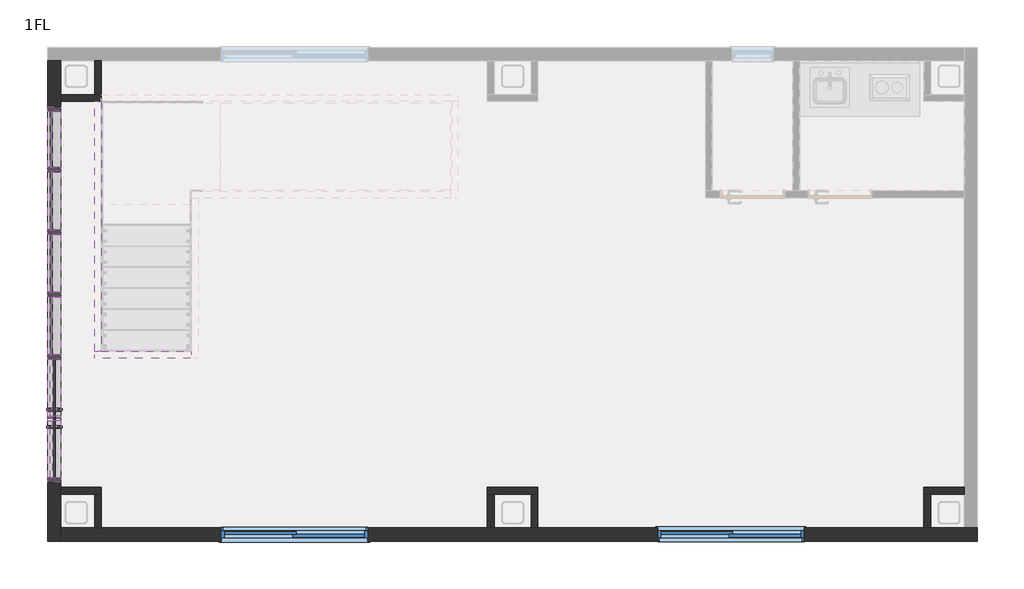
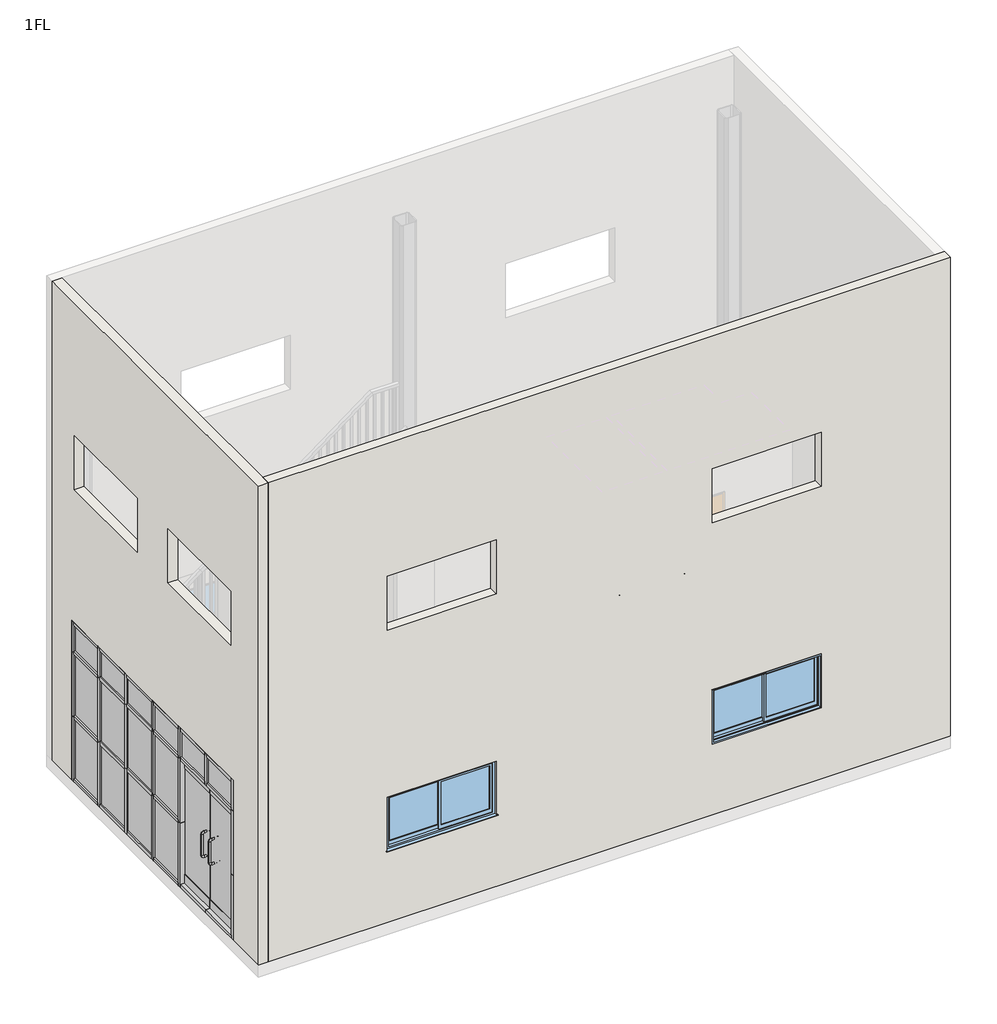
# One storey, part 1 of 3: 41 members, 15 plates, 13 walls, 2 windows.
"""IFC4 building model written with IfcOpenShell, lengths in millimetres."""

from ifc_helpers import new_model, si_unit, frame, origin, place, context, project, spatial, polyline, outline, extrude, faceted_brep, transform, mapped, element, save
from components import member_50x150mm_a0e2e66f, member_50x150mm_a9c68ae1, member_50x150mm_62bde7b1, member_50x150mm_43fc7b63, member_50x150mm_86d21357, member_50x150mm_22f77a7a, member_50x150mm_8a69f4a4, member_50x150mm_b3666dbd, member_50x150mm_1a36453b, member_50x150mm_5157afd8, member_50x150mm_37d6beb1, member_50x150mm_f4543df4, plate_bb3d00ed, plate_81b017a3, plate_3e90128c, plate_3f01d40e, plate_8868ab24, plate_6b8e4332, plate_e66cd56a, plate_cf903d6a, w1600h0800_d7cd19be

model = new_model("IFC4")

# Units and contexts
model_context = context("Model", 3, world=origin())
ifc_project = project(units=[si_unit("LENGTHUNIT", "METRE", prefix="MILLI")], contexts=[model_context])

# Site, building, storey
site = spatial("IfcSite", under=ifc_project)
building = spatial("IfcBuilding", under=site)
storey = spatial("IfcBuildingStorey", under=building, Name="1FL", Elevation=200.0)

# Members
placement = place(None, origin())
member_50x150mm_shape = member_50x150mm_a0e2e66f(model_context)
element("IfcMember", 1, ObjectType="長方形マリオン : 50x150mm", at=placement, inside=storey, context=model_context, shape_type="MappedRepresentation", body=[
    mapped(member_50x150mm_shape, transform((-5297.3880564, 2186.0382733, 2800.0), x_axis=(0.0, 0.0, 1.0), y_axis=(1.0, 0.0, 0.0), z_axis=(0.0, 1.0, 0.0))),
])
member_50x150mm_2_shape = member_50x150mm_a9c68ae1(model_context)
element("IfcMember", 2, ObjectType="長方形マリオン : 50x150mm", at=placement, inside=storey, context=model_context, shape_type="MappedRepresentation", body=[
    mapped(member_50x150mm_2_shape, transform((-5297.3880564, 86.0382733, 200.0), x_axis=(0.0, 1.0, 0.0), y_axis=(1.0, 0.0, 0.0), z_axis=(0.0, 0.0, -1.0))),
])
element("IfcMember", 3, ObjectType="長方形マリオン : 50x150mm", at=placement, inside=storey, context=model_context, shape_type="MappedRepresentation", body=[
    mapped(member_50x150mm_2_shape, transform((-5297.3880564, 1519.3716066, 200.0), x_axis=(0.0, 1.0, 0.0), y_axis=(1.0, 0.0, 0.0), z_axis=(0.0, 0.0, -1.0))),
])
element("IfcMember", 4, ObjectType="長方形マリオン : 50x150mm", at=placement, inside=storey, context=model_context, shape_type="MappedRepresentation", body=[
    mapped(member_50x150mm_2_shape, transform((-5297.3880564, 802.7049399, 200.0), x_axis=(0.0, 1.0, 0.0), y_axis=(1.0, 0.0, 0.0), z_axis=(0.0, 0.0, -1.0))),
])
element("IfcMember", 5, ObjectType="長方形マリオン : 50x150mm", at=placement, inside=storey, context=model_context, shape_type="MappedRepresentation", body=[
    mapped(member_50x150mm_2_shape, transform((-5297.3880564, -630.6283934, 200.0), x_axis=(0.0, 1.0, 0.0), y_axis=(1.0, 0.0, 0.0), z_axis=(0.0, 0.0, -1.0))),
])
member_50x150mm_3_shape = member_50x150mm_62bde7b1(model_context)
element("IfcMember", 6, ObjectType="長方形マリオン : 50x150mm", at=placement, inside=storey, context=model_context, shape_type="MappedRepresentation", body=[
    mapped(member_50x150mm_3_shape, transform((-5297.3880564, 2186.0382733, 2300.0), x_axis=(0.0, 0.0, 1.0), y_axis=(1.0, 0.0, 0.0), z_axis=(0.0, 1.0, 0.0))),
])
element("IfcMember", 7, ObjectType="長方形マリオン : 50x150mm", at=placement, inside=storey, context=model_context, shape_type="MappedRepresentation", body=[
    mapped(member_50x150mm_3_shape, transform((-5297.3880564, 2186.0382733, 1250.0), x_axis=(0.0, 0.0, 1.0), y_axis=(1.0, 0.0, 0.0), z_axis=(0.0, 1.0, 0.0))),
])
member_50x150mm_4_shape = member_50x150mm_43fc7b63(model_context)
element("IfcMember", 8, ObjectType="長方形マリオン : 50x150mm", at=placement, inside=storey, context=model_context, shape_type="MappedRepresentation", body=[
    mapped(member_50x150mm_4_shape, transform((-5297.3880564, 777.7049399, 2300.0), x_axis=(0.0, 0.0, 1.0), y_axis=(1.0, 0.0, 0.0), z_axis=(0.0, 1.0, 0.0))),
])
element("IfcMember", 9, ObjectType="長方形マリオン : 50x150mm", at=placement, inside=storey, context=model_context, shape_type="MappedRepresentation", body=[
    mapped(member_50x150mm_4_shape, transform((-5297.3880564, 1494.3716066, 2300.0), x_axis=(0.0, 0.0, 1.0), y_axis=(1.0, 0.0, 0.0), z_axis=(0.0, 1.0, 0.0))),
])
element("IfcMember", 10, ObjectType="長方形マリオン : 50x150mm", at=placement, inside=storey, context=model_context, shape_type="MappedRepresentation", body=[
    mapped(member_50x150mm_4_shape, transform((-5297.3880564, 61.0382733, 2300.0), x_axis=(0.0, 0.0, 1.0), y_axis=(1.0, 0.0, 0.0), z_axis=(0.0, 1.0, 0.0))),
])
element("IfcMember", 11, ObjectType="長方形マリオン : 50x150mm", at=placement, inside=storey, context=model_context, shape_type="MappedRepresentation", body=[
    mapped(member_50x150mm_4_shape, transform((-5297.3880564, 777.7049399, 1250.0), x_axis=(0.0, 0.0, 1.0), y_axis=(1.0, 0.0, 0.0), z_axis=(0.0, 1.0, 0.0))),
])
element("IfcMember", 12, ObjectType="長方形マリオン : 50x150mm", at=placement, inside=storey, context=model_context, shape_type="MappedRepresentation", body=[
    mapped(member_50x150mm_4_shape, transform((-5297.3880564, 1494.3716066, 1250.0), x_axis=(0.0, 0.0, 1.0), y_axis=(1.0, 0.0, 0.0), z_axis=(0.0, 1.0, 0.0))),
])
element("IfcMember", 13, ObjectType="長方形マリオン : 50x150mm", at=placement, inside=storey, context=model_context, shape_type="MappedRepresentation", body=[
    mapped(member_50x150mm_4_shape, transform((-5297.3880564, 61.0382733, 1250.0), x_axis=(0.0, 0.0, 1.0), y_axis=(1.0, 0.0, 0.0), z_axis=(0.0, 1.0, 0.0))),
])
member_50x150mm_5_shape = member_50x150mm_86d21357(model_context)
element("IfcMember", 14, ObjectType="長方形マリオン : 50x150mm", at=placement, inside=storey, context=model_context, shape_type="MappedRepresentation", body=[
    mapped(member_50x150mm_5_shape, transform((-5297.3880564, 111.0382733, 200.0), x_axis=(0.0, 0.0, -1.0), y_axis=(1.0, 0.0, 0.0), z_axis=(0.0, -1.0, 0.0))),
])
element("IfcMember", 15, ObjectType="長方形マリオン : 50x150mm", at=placement, inside=storey, context=model_context, shape_type="MappedRepresentation", body=[
    mapped(member_50x150mm_5_shape, transform((-5297.3880564, 827.7049399, 200.0), x_axis=(0.0, 0.0, -1.0), y_axis=(1.0, 0.0, 0.0), z_axis=(0.0, -1.0, 0.0))),
])
element("IfcMember", 16, ObjectType="長方形マリオン : 50x150mm", at=placement, inside=storey, context=model_context, shape_type="MappedRepresentation", body=[
    mapped(member_50x150mm_5_shape, transform((-5297.3880564, -605.6283934, 200.0), x_axis=(0.0, 0.0, -1.0), y_axis=(1.0, 0.0, 0.0), z_axis=(0.0, -1.0, 0.0))),
])
element("IfcMember", 17, ObjectType="長方形マリオン : 50x150mm", at=placement, inside=storey, context=model_context, shape_type="MappedRepresentation", body=[
    mapped(member_50x150mm_shape, transform((-5297.3880564, 1544.3716066, 200.0), x_axis=(0.0, 0.0, -1.0), y_axis=(1.0, 0.0, 0.0), z_axis=(0.0, -1.0, 0.0))),
])
element("IfcMember", 18, ObjectType="長方形マリオン : 50x150mm", at=placement, inside=storey, context=model_context, shape_type="MappedRepresentation", body=[
    mapped(member_50x150mm_5_shape, transform((-5297.3880564, 61.0382733, 2800.0), x_axis=(0.0, 0.0, 1.0), y_axis=(1.0, 0.0, 0.0), z_axis=(0.0, 1.0, 0.0))),
])
element("IfcMember", 19, ObjectType="長方形マリオン : 50x150mm", at=placement, inside=storey, context=model_context, shape_type="MappedRepresentation", body=[
    mapped(member_50x150mm_5_shape, transform((-5297.3880564, 1494.3716066, 2800.0), x_axis=(0.0, 0.0, 1.0), y_axis=(1.0, 0.0, 0.0), z_axis=(0.0, 1.0, 0.0))),
])
element("IfcMember", 20, ObjectType="長方形マリオン : 50x150mm", at=placement, inside=storey, context=model_context, shape_type="MappedRepresentation", body=[
    mapped(member_50x150mm_5_shape, transform((-5297.3880564, 777.7049399, 2800.0), x_axis=(0.0, 0.0, 1.0), y_axis=(1.0, 0.0, 0.0), z_axis=(0.0, 1.0, 0.0))),
])
member_50x150mm_6_shape = member_50x150mm_22f77a7a(model_context)
element("IfcMember", 21, ObjectType="長方形マリオン : 50x150mm", at=placement, inside=storey, context=model_context, shape_type="MappedRepresentation", body=[
    mapped(member_50x150mm_6_shape, transform((-5297.3880564, 86.0382733, 2300.0), x_axis=(0.0, 1.0, 0.0), y_axis=(1.0, 0.0, 0.0), z_axis=(0.0, 0.0, -1.0))),
])
element("IfcMember", 22, ObjectType="長方形マリオン : 50x150mm", at=placement, inside=storey, context=model_context, shape_type="MappedRepresentation", body=[
    mapped(member_50x150mm_6_shape, transform((-5297.3880564, 1519.3716066, 2300.0), x_axis=(0.0, 1.0, 0.0), y_axis=(1.0, 0.0, 0.0), z_axis=(0.0, 0.0, -1.0))),
])
element("IfcMember", 23, ObjectType="長方形マリオン : 50x150mm", at=placement, inside=storey, context=model_context, shape_type="MappedRepresentation", body=[
    mapped(member_50x150mm_6_shape, transform((-5297.3880564, 802.7049399, 2300.0), x_axis=(0.0, 1.0, 0.0), y_axis=(1.0, 0.0, 0.0), z_axis=(0.0, 0.0, -1.0))),
])
element("IfcMember", 24, ObjectType="長方形マリオン : 50x150mm", at=placement, inside=storey, context=model_context, shape_type="MappedRepresentation", body=[
    mapped(member_50x150mm_6_shape, transform((-5297.3880564, -630.6283934, 2300.0), x_axis=(0.0, 1.0, 0.0), y_axis=(1.0, 0.0, 0.0), z_axis=(0.0, 0.0, -1.0))),
])
element("IfcMember", 25, ObjectType="長方形マリオン : 50x150mm", at=placement, inside=storey, context=model_context, shape_type="MappedRepresentation", body=[
    mapped(member_50x150mm_2_shape, transform((-5297.3880564, 86.0382733, 1250.0), x_axis=(0.0, 1.0, 0.0), y_axis=(1.0, 0.0, 0.0), z_axis=(0.0, 0.0, -1.0))),
])
element("IfcMember", 26, ObjectType="長方形マリオン : 50x150mm", at=placement, inside=storey, context=model_context, shape_type="MappedRepresentation", body=[
    mapped(member_50x150mm_2_shape, transform((-5297.3880564, 1519.3716066, 1250.0), x_axis=(0.0, 1.0, 0.0), y_axis=(1.0, 0.0, 0.0), z_axis=(0.0, 0.0, -1.0))),
])
element("IfcMember", 27, ObjectType="長方形マリオン : 50x150mm", at=placement, inside=storey, context=model_context, shape_type="MappedRepresentation", body=[
    mapped(member_50x150mm_2_shape, transform((-5297.3880564, 802.7049399, 1250.0), x_axis=(0.0, 1.0, 0.0), y_axis=(1.0, 0.0, 0.0), z_axis=(0.0, 0.0, -1.0))),
])
element("IfcMember", 28, ObjectType="長方形マリオン : 50x150mm", at=placement, inside=storey, context=model_context, shape_type="MappedRepresentation", body=[
    mapped(member_50x150mm_2_shape, transform((-5297.3880564, -630.6283934, 1250.0), x_axis=(0.0, 1.0, 0.0), y_axis=(1.0, 0.0, 0.0), z_axis=(0.0, 0.0, -1.0))),
])
member_50x150mm_7_shape = member_50x150mm_8a69f4a4(model_context)
element("IfcMember", 29, ObjectType="長方形マリオン : 50x150mm", at=placement, inside=storey, context=model_context, shape_type="MappedRepresentation", body=[
    mapped(member_50x150mm_7_shape, transform((-5297.3880564, -1334.7950601, 2275.0), x_axis=(0.0, 1.0, 0.0), y_axis=(1.0, 0.0, 0.0), z_axis=(0.0, 0.0, -1.0))),
])
member_50x150mm_8_shape = member_50x150mm_b3666dbd(model_context)
element("IfcMember", 30, ObjectType="長方形マリオン : 50x150mm", at=placement, inside=storey, context=model_context, shape_type="MappedRepresentation", body=[
    mapped(member_50x150mm_8_shape, transform((-5297.3880564, -2063.9617267, 2800.0), x_axis=(0.0, -1.0, 0.0), y_axis=(1.0, 0.0, 0.0), z_axis=(0.0, 0.0, 1.0))),
])
member_50x150mm_9_shape = member_50x150mm_1a36453b(model_context)
element("IfcMember", 31, ObjectType="長方形マリオン : 50x150mm", at=placement, inside=storey, context=model_context, shape_type="MappedRepresentation", body=[
    mapped(member_50x150mm_9_shape, transform((-5297.3880564, 2236.0382733, 200.0), x_axis=(0.0, 1.0, 0.0), y_axis=(1.0, 0.0, 0.0), z_axis=(0.0, 0.0, -1.0))),
])
element("IfcMember", 32, ObjectType="長方形マリオン : 50x150mm", at=placement, inside=storey, context=model_context, shape_type="MappedRepresentation", body=[
    mapped(member_50x150mm_8_shape, transform((-5297.3880564, 2236.0382733, 2300.0), x_axis=(0.0, 1.0, 0.0), y_axis=(1.0, 0.0, 0.0), z_axis=(0.0, 0.0, -1.0))),
])
element("IfcMember", 33, ObjectType="長方形マリオン : 50x150mm", at=placement, inside=storey, context=model_context, shape_type="MappedRepresentation", body=[
    mapped(member_50x150mm_9_shape, transform((-5297.3880564, 2236.0382733, 1250.0), x_axis=(0.0, 1.0, 0.0), y_axis=(1.0, 0.0, 0.0), z_axis=(0.0, 0.0, -1.0))),
])
element("IfcMember", 34, ObjectType="長方形マリオン : 50x150mm", at=placement, inside=storey, context=model_context, shape_type="MappedRepresentation", body=[
    mapped(member_50x150mm_9_shape, transform((-5297.3880564, -2063.9617267, 2300.0), x_axis=(0.0, -1.0, 0.0), y_axis=(1.0, 0.0, 0.0), z_axis=(0.0, 0.0, 1.0))),
])
element("IfcMember", 35, ObjectType="長方形マリオン : 50x150mm", at=placement, inside=storey, context=model_context, shape_type="MappedRepresentation", body=[
    mapped(member_50x150mm_9_shape, transform((-5297.3880564, -2063.9617267, 1250.0), x_axis=(0.0, -1.0, 0.0), y_axis=(1.0, 0.0, 0.0), z_axis=(0.0, 0.0, 1.0))),
])
member_50x150mm_10_shape = member_50x150mm_5157afd8(model_context)
element("IfcMember", 36, ObjectType="長方形マリオン : 50x150mm", at=placement, inside=storey, context=model_context, shape_type="MappedRepresentation", body=[
    mapped(member_50x150mm_10_shape, transform((-5297.3880564, -2013.9617267, 200.0), x_axis=(0.0, 0.0, -1.0), y_axis=(1.0, 0.0, 0.0), z_axis=(0.0, -1.0, 0.0))),
])
member_50x150mm_11_shape = member_50x150mm_37d6beb1(model_context)
element("IfcMember", 37, ObjectType="長方形マリオン : 50x150mm", at=placement, inside=storey, context=model_context, shape_type="MappedRepresentation", body=[
    mapped(member_50x150mm_11_shape, transform((-5297.3880564, -1359.7950601, 2300.0), x_axis=(0.0, 0.0, 1.0), y_axis=(1.0, 0.0, 0.0), z_axis=(0.0, 1.0, 0.0))),
])
element("IfcMember", 38, ObjectType="長方形マリオン : 50x150mm", at=placement, inside=storey, context=model_context, shape_type="MappedRepresentation", body=[
    mapped(member_50x150mm_11_shape, transform((-5297.3880564, -655.6283934, 2300.0), x_axis=(0.0, 0.0, 1.0), y_axis=(1.0, 0.0, 0.0), z_axis=(0.0, 1.0, 0.0))),
])
element("IfcMember", 39, ObjectType="長方形マリオン : 50x150mm", at=placement, inside=storey, context=model_context, shape_type="MappedRepresentation", body=[
    mapped(member_50x150mm_10_shape, transform((-5297.3880564, -1334.7950601, 200.0), x_axis=(0.0, 0.0, -1.0), y_axis=(1.0, 0.0, 0.0), z_axis=(0.0, -1.0, 0.0))),
])
member_50x150mm_12_shape = member_50x150mm_f4543df4(model_context)
element("IfcMember", 40, ObjectType="長方形マリオン : 50x150mm", at=placement, inside=storey, context=model_context, shape_type="MappedRepresentation", body=[
    mapped(member_50x150mm_12_shape, transform((-5297.3880564, -655.6283934, 2800.0), x_axis=(0.0, 0.0, 1.0), y_axis=(1.0, 0.0, 0.0), z_axis=(0.0, 1.0, 0.0))),
])
element("IfcMember", 41, ObjectType="長方形マリオン : 50x150mm", at=placement, inside=storey, context=model_context, shape_type="MappedRepresentation", body=[
    mapped(member_50x150mm_12_shape, transform((-5297.3880564, -1359.7950601, 2800.0), x_axis=(0.0, 0.0, 1.0), y_axis=(1.0, 0.0, 0.0), z_axis=(0.0, 1.0, 0.0))),
])

# Plates
plate_shape = plate_bb3d00ed(model_context)
element("IfcPlate", 42, ObjectType="システム パネル1 : ガラス", at=placement, inside=storey, context=model_context, shape_type="MappedRepresentation", body=[
    mapped(plate_shape, transform((-5297.3880564, 444.3716066, 250.0), x_axis=(0.0, 1.0, 0.0), y_axis=(-1.0, 0.0, 0.0), z_axis=(0.0, 0.0, 1.0))),
])
element("IfcPlate", 43, ObjectType="システム パネル1 : ガラス", at=placement, inside=storey, context=model_context, shape_type="MappedRepresentation", body=[
    mapped(plate_shape, transform((-5297.3880564, 1161.0382733, 250.0), x_axis=(0.0, 1.0, 0.0), y_axis=(-1.0, 0.0, 0.0), z_axis=(0.0, 0.0, 1.0))),
])
element("IfcPlate", 44, ObjectType="システム パネル1 : ガラス", at=placement, inside=storey, context=model_context, shape_type="MappedRepresentation", body=[
    mapped(plate_shape, transform((-5297.3880564, -272.2950601, 250.0), x_axis=(0.0, 1.0, 0.0), y_axis=(-1.0, 0.0, 0.0), z_axis=(0.0, 0.0, 1.0))),
])
plate_2_shape = plate_81b017a3(model_context)
element("IfcPlate", 45, ObjectType="システム パネル1 : ガラス", at=placement, inside=storey, context=model_context, shape_type="MappedRepresentation", body=[
    mapped(plate_2_shape, transform((-5297.3880564, 1865.2049399, 250.0), x_axis=(0.0, 1.0, 0.0), y_axis=(-1.0, 0.0, 0.0), z_axis=(0.0, 0.0, 1.0))),
])
plate_3_shape = plate_3e90128c(model_context)
element("IfcPlate", 46, ObjectType="システム パネル1 : ガラス", at=placement, inside=storey, context=model_context, shape_type="MappedRepresentation", body=[
    mapped(plate_3_shape, transform((-5297.3880564, 1865.2049399, 2325.0), x_axis=(0.0, 1.0, 0.0), y_axis=(-1.0, 0.0, 0.0), z_axis=(0.0, 0.0, 1.0))),
])
plate_4_shape = plate_3f01d40e(model_context)
element("IfcPlate", 47, ObjectType="システム パネル1 : ガラス", at=placement, inside=storey, context=model_context, shape_type="MappedRepresentation", body=[
    mapped(plate_4_shape, transform((-5297.3880564, -272.2950601, 2325.0), x_axis=(0.0, 1.0, 0.0), y_axis=(-1.0, 0.0, 0.0), z_axis=(0.0, 0.0, 1.0))),
])
element("IfcPlate", 48, ObjectType="システム パネル1 : ガラス", at=placement, inside=storey, context=model_context, shape_type="MappedRepresentation", body=[
    mapped(plate_4_shape, transform((-5297.3880564, 444.3716066, 2325.0), x_axis=(0.0, 1.0, 0.0), y_axis=(-1.0, 0.0, 0.0), z_axis=(0.0, 0.0, 1.0))),
])
element("IfcPlate", 49, ObjectType="システム パネル1 : ガラス", at=placement, inside=storey, context=model_context, shape_type="MappedRepresentation", body=[
    mapped(plate_4_shape, transform((-5297.3880564, 1161.0382733, 2325.0), x_axis=(0.0, 1.0, 0.0), y_axis=(-1.0, 0.0, 0.0), z_axis=(0.0, 0.0, 1.0))),
])
plate_5_shape = plate_8868ab24(model_context)
element("IfcPlate", 50, ObjectType="システム パネル1 : ガラス", at=placement, inside=storey, context=model_context, shape_type="MappedRepresentation", body=[
    mapped(plate_5_shape, transform((-5297.3880564, -272.2950601, 1275.0), x_axis=(0.0, 1.0, 0.0), y_axis=(-1.0, 0.0, 0.0), z_axis=(0.0, 0.0, 1.0))),
])
element("IfcPlate", 51, ObjectType="システム パネル1 : ガラス", at=placement, inside=storey, context=model_context, shape_type="MappedRepresentation", body=[
    mapped(plate_5_shape, transform((-5297.3880564, 444.3716066, 1275.0), x_axis=(0.0, 1.0, 0.0), y_axis=(-1.0, 0.0, 0.0), z_axis=(0.0, 0.0, 1.0))),
])
element("IfcPlate", 52, ObjectType="システム パネル1 : ガラス", at=placement, inside=storey, context=model_context, shape_type="MappedRepresentation", body=[
    mapped(plate_5_shape, transform((-5297.3880564, 1161.0382733, 1275.0), x_axis=(0.0, 1.0, 0.0), y_axis=(-1.0, 0.0, 0.0), z_axis=(0.0, 0.0, 1.0))),
])
plate_6_shape = plate_6b8e4332(model_context)
element("IfcPlate", 53, ObjectType="システム パネル1 : ガラス", at=placement, inside=storey, context=model_context, shape_type="MappedRepresentation", body=[
    mapped(plate_6_shape, transform((-5297.3880564, 1865.2049399, 1275.0), x_axis=(0.0, 1.0, 0.0), y_axis=(-1.0, 0.0, 0.0), z_axis=(0.0, 0.0, 1.0))),
])
plate_7_shape = plate_e66cd56a(model_context)
element("IfcPlate", 54, ObjectType="両開き - ヒンジ2 : ガラス パネル", at=placement, inside=storey, context=model_context, shape_type="MappedRepresentation", body=[
    mapped(plate_7_shape, transform((-5297.3880564, -1334.7950601, 250.0), x_axis=(0.0, 1.0, 0.0), y_axis=(-1.0, 0.0, 0.0), z_axis=(0.0, 0.0, 1.0))),
])
plate_8_shape = plate_cf903d6a(model_context)
element("IfcPlate", 55, ObjectType="システム パネル1 : ガラス", at=placement, inside=storey, context=model_context, shape_type="MappedRepresentation", body=[
    mapped(plate_8_shape, transform((-5297.3880564, -1686.8783934, 2325.0), x_axis=(0.0, 1.0, 0.0), y_axis=(-1.0, 0.0, 0.0), z_axis=(0.0, 0.0, 1.0))),
])
element("IfcPlate", 56, ObjectType="システム パネル1 : ガラス", at=placement, inside=storey, context=model_context, shape_type="MappedRepresentation", body=[
    mapped(plate_8_shape, transform((-5297.3880564, -982.7117267, 2325.0), x_axis=(0.0, 1.0, 0.0), y_axis=(-1.0, 0.0, 0.0), z_axis=(0.0, 0.0, 1.0))),
])

# Walls
element("IfcWall", 57, ObjectType="標準-150mm", at=placement, inside=storey, context=model_context, shape_type="Brep", body=[
    faceted_brep([(-5222.3880564, 2761.0382733, 8000.0), (-5222.3880564, -2588.9617267, 8000.0), (-5222.3880564, -2738.9617267, 8000.0), (-5222.3880564, -2738.9617267, 200.0), (-5222.3880564, -2588.9617267, 200.0), (-5222.3880564, -2203.4617267, 200.0), (-5222.3880564, -2124.4617267, 200.0), (-5222.3880564, -2063.9617267, 200.0), (-5222.3880564, -2063.9617267, 2800.0), (-5222.3880564, 2236.0382733, 2800.0), (-5222.3880564, 2236.0382733, 200.0), (-5222.3880564, 2296.5382733, 200.0), (-5222.3880564, 2375.5382733, 200.0), (-5222.3880564, 2761.0382733, 200.0), (-5222.3880564, -323.9617267, 5840.0), (-5222.3880564, -323.9617267, 4960.0), (-5222.3880564, -2003.9617267, 4960.0), (-5222.3880564, -2003.9617267, 5840.0), (-5222.3880564, 2176.0382733, 5840.0), (-5222.3880564, 2176.0382733, 4960.0), (-5222.3880564, 496.0382733, 4960.0), (-5222.3880564, 496.0382733, 5840.0), (-5372.3880564, -2738.9617267, 8000.0), (-5372.3880564, 2761.0382733, 8000.0), (-5372.3880564, 2761.0382733, 200.0), (-5372.3880564, 2236.0382733, 200.0), (-5372.3880564, 2236.0382733, 2800.0), (-5372.3880564, -2063.9617267, 2800.0), (-5372.3880564, -2063.9617267, 200.0), (-5372.3880564, -2738.9617267, 200.0), (-5372.3880564, -323.9617267, 5840.0), (-5372.3880564, -2003.9617267, 5840.0), (-5372.3880564, -2003.9617267, 4960.0), (-5372.3880564, -323.9617267, 4960.0), (-5372.3880564, 2176.0382733, 5840.0), (-5372.3880564, 496.0382733, 5840.0), (-5372.3880564, 496.0382733, 4960.0), (-5372.3880564, 2176.0382733, 4960.0)], [[[0, 1, 2, 3, 4, 5, 6, 7, 8, 9, 10, 11, 12, 13], [14, 15, 16, 17], [18, 19, 20, 21]], [[22, 23, 24, 25, 26, 27, 28, 29], [30, 31, 32, 33], [34, 35, 36, 37]], [[3, 29, 28, 7, 6, 5, 4]], [[24, 13, 12, 11, 10, 25]], [[2, 1, 0, 23, 22]], [[3, 2, 22, 29]], [[0, 13, 24, 23]], [[27, 8, 7, 28]], [[8, 27, 26, 9]], [[9, 26, 25, 10]], [[15, 14, 30, 33]], [[16, 15, 33, 32]], [[17, 16, 32, 31]], [[14, 17, 31, 30]], [[19, 18, 34, 37]], [[20, 19, 37, 36]], [[21, 20, 36, 35]], [[18, 21, 35, 34]]]),
])
element("IfcWall", 58, ObjectType="標準-150mm", at=placement, inside=storey, context=model_context, shape_type="Brep", body=[
    faceted_brep([(5277.6119436, -2588.9617267, 200.0), (5127.6119436, -2588.9617267, 200.0), (4742.1119436, -2588.9617267, 200.0), (4663.1119436, -2588.9617267, 200.0), (242.1119436, -2588.9617267, 200.0), (163.1119436, -2588.9617267, 200.0), (-257.8880564, -2588.9617267, 200.0), (-336.8880564, -2588.9617267, 200.0), (-4757.8880564, -2588.9617267, 200.0), (-4836.8880564, -2588.9617267, 200.0), (-5222.3880564, -2588.9617267, 200.0), (-5222.3880564, -2588.9617267, 8000.0), (5127.6119436, -2588.9617267, 8000.0), (5277.6119436, -2588.9617267, 8000.0), (-3387.3880564, -2588.9617267, 2240.0), (-3387.3880564, -2588.9617267, 1360.0), (-1707.3880564, -2588.9617267, 1360.0), (-1707.3880564, -2588.9617267, 2240.0), (3292.6119436, -2588.9617267, 2240.0), (1612.6119436, -2588.9617267, 2240.0), (1612.6119436, -2588.9617267, 1360.0), (3292.6119436, -2588.9617267, 1360.0), (-3387.3880564, -2588.9617267, 5840.0), (-3387.3880564, -2588.9617267, 4960.0), (-1707.3880564, -2588.9617267, 4960.0), (-1707.3880564, -2588.9617267, 5840.0), (1612.6119436, -2588.9617267, 5840.0), (1612.6119436, -2588.9617267, 4960.0), (3292.6119436, -2588.9617267, 4960.0), (3292.6119436, -2588.9617267, 5840.0), (5277.6119436, -2738.9617267, 200.0), (5277.6119436, -2738.9617267, 8000.0), (-5222.3880564, -2738.9617267, 8000.0), (-5222.3880564, -2738.9617267, 200.0), (-3387.3880564, -2738.9617267, 2240.0), (-1707.3880564, -2738.9617267, 2240.0), (-1707.3880564, -2738.9617267, 1360.0), (-3387.3880564, -2738.9617267, 1360.0), (3292.6119436, -2738.9617267, 2240.0), (3292.6119436, -2738.9617267, 1360.0), (1612.6119436, -2738.9617267, 1360.0), (1612.6119436, -2738.9617267, 2240.0), (-3387.3880564, -2738.9617267, 5840.0), (-1707.3880564, -2738.9617267, 5840.0), (-1707.3880564, -2738.9617267, 4960.0), (-3387.3880564, -2738.9617267, 4960.0), (1612.6119436, -2738.9617267, 5840.0), (3292.6119436, -2738.9617267, 5840.0), (3292.6119436, -2738.9617267, 4960.0), (1612.6119436, -2738.9617267, 4960.0)], [[[0, 1, 2, 3, 4, 5, 6, 7, 8, 9, 10, 11, 12, 13], [14, 15, 16, 17], [18, 19, 20, 21], [22, 23, 24, 25], [26, 27, 28, 29]], [[30, 31, 32, 33], [34, 35, 36, 37], [38, 39, 40, 41], [42, 43, 44, 45], [46, 47, 48, 49]], [[10, 9, 8, 7, 6, 5, 4, 3, 2, 1, 0, 30, 33]], [[13, 12, 11, 32, 31]], [[0, 13, 31, 30]], [[11, 10, 33, 32]], [[15, 14, 34, 37]], [[16, 15, 37, 36]], [[17, 16, 36, 35]], [[14, 17, 35, 34]], [[39, 38, 18, 21]], [[40, 39, 21, 20]], [[41, 40, 20, 19]], [[38, 41, 19, 18]], [[23, 22, 42, 45]], [[24, 23, 45, 44]], [[25, 24, 44, 43]], [[22, 25, 43, 42]], [[27, 26, 46, 49]], [[28, 27, 49, 48]], [[29, 28, 48, 47]], [[26, 29, 47, 46]]]),
])
element("IfcWall", 59, ObjectType="内壁-79mm 間仕切り(1時間)", at=placement, inside=storey, context=model_context, shape_type="SweptSolid", body=[
    extrude(outline(polyline([(-4836.8880564, 2375.5382733), (-4836.8880564, 2761.0382733), (-4757.8880564, 2761.0382733), (-4757.8880564, 2375.5382733), (-4836.8880564, 2375.5382733)])), frame((0.0, 0.0, 200.0), z_axis=(0.0, 0.0, 1.0), x_axis=(1.0, 0.0, 0.0)), (0.0, 0.0, 1.0), 3450.0),
])
element("IfcWall", 60, ObjectType="内壁-79mm 間仕切り(1時間)", at=placement, inside=storey, context=model_context, shape_type="Brep", body=[
    faceted_brep([(-4757.8880564, 2375.5382733, 3650.0), (-4757.8880564, 2375.5382733, 2852.0), (-4757.8880564, 2375.5382733, 200.0), (-4836.8880564, 2375.5382733, 200.0), (-5222.3880564, 2375.5382733, 200.0), (-5222.3880564, 2375.5382733, 3650.0), (-4836.8880564, 2375.5382733, 3650.0), (-4757.8880564, 2296.5382733, 200.0), (-4757.8880564, 2296.5382733, 2852.0), (-4757.8880564, 2296.5382733, 3650.0), (-4836.8880564, 2296.5382733, 3650.0), (-5222.3880564, 2296.5382733, 3650.0), (-5222.3880564, 2296.5382733, 200.0)], [[[0, 1, 2, 3, 4, 5, 6]], [[7, 8, 9, 10, 11, 12]], [[4, 3, 2, 7, 12]], [[0, 6, 5, 11, 10, 9]], [[5, 4, 12, 11]], [[0, 9, 8, 7, 2, 1]]]),
])
element("IfcWall", 61, ObjectType="内壁-79mm 間仕切り(1時間)", at=placement, inside=storey, context=model_context, shape_type="SweptSolid", body=[
    extrude(outline(polyline([(-4757.8880564, -2203.4617267), (-4757.8880564, -2588.9617267), (-4836.8880564, -2588.9617267), (-4836.8880564, -2203.4617267), (-4757.8880564, -2203.4617267)])), frame((0.0, 0.0, 200.0), z_axis=(0.0, 0.0, 1.0), x_axis=(1.0, 0.0, 0.0)), (0.0, 0.0, 1.0), 3450.0),
])
element("IfcWall", 62, ObjectType="内壁-79mm 間仕切り(1時間)", at=placement, inside=storey, context=model_context, shape_type="Brep", body=[
    faceted_brep([(-4757.8880564, -2124.4617267, 200.0), (-5222.3880564, -2124.4617267, 200.0), (-5222.3880564, -2124.4617267, 3650.0), (-4757.8880564, -2124.4617267, 3650.0), (-4757.8880564, -2203.4617267, 200.0), (-4757.8880564, -2203.4617267, 3650.0), (-4836.8880564, -2203.4617267, 3650.0), (-5222.3880564, -2203.4617267, 3650.0), (-5222.3880564, -2203.4617267, 200.0), (-4836.8880564, -2203.4617267, 200.0)], [[[0, 1, 2, 3]], [[4, 5, 6, 7, 8, 9]], [[1, 0, 4, 9, 8]], [[3, 2, 7, 6, 5]], [[0, 3, 5, 4]], [[2, 1, 8, 7]]]),
])
element("IfcWall", 63, ObjectType="内壁-79mm 間仕切り(1時間)", at=placement, inside=storey, context=model_context, shape_type="SweptSolid", body=[
    extrude(outline(polyline([(242.1119436, -2203.4617267), (242.1119436, -2588.9617267), (163.1119436, -2588.9617267), (163.1119436, -2203.4617267), (242.1119436, -2203.4617267)])), frame((0.0, 0.0, 200.0), z_axis=(0.0, 0.0, 1.0), x_axis=(1.0, 0.0, 0.0)), (0.0, 0.0, 1.0), 3450.0),
])
element("IfcWall", 64, ObjectType="内壁-79mm 間仕切り(1時間)", at=placement, inside=storey, context=model_context, shape_type="Brep", body=[
    faceted_brep([(242.1119436, -2124.4617267, 200.0), (-336.8880564, -2124.4617267, 200.0), (-336.8880564, -2124.4617267, 3650.0), (242.1119436, -2124.4617267, 3650.0), (242.1119436, -2203.4617267, 200.0), (242.1119436, -2203.4617267, 3650.0), (163.1119436, -2203.4617267, 3650.0), (-257.8880564, -2203.4617267, 3650.0), (-336.8880564, -2203.4617267, 3650.0), (-336.8880564, -2203.4617267, 200.0), (-257.8880564, -2203.4617267, 200.0), (163.1119436, -2203.4617267, 200.0)], [[[0, 1, 2, 3]], [[4, 5, 6, 7, 8, 9, 10, 11]], [[1, 0, 4, 11, 10, 9]], [[3, 2, 8, 7, 6, 5]], [[0, 3, 5, 4]], [[2, 1, 9, 8]]]),
])
element("IfcWall", 65, ObjectType="内壁-79mm 間仕切り(1時間)", at=placement, inside=storey, context=model_context, shape_type="SweptSolid", body=[
    extrude(outline(polyline([(-336.8880564, -2588.9617267), (-336.8880564, -2203.4617267), (-257.8880564, -2203.4617267), (-257.8880564, -2588.9617267), (-336.8880564, -2588.9617267)])), frame((0.0, 0.0, 200.0), z_axis=(0.0, 0.0, 1.0), x_axis=(1.0, 0.0, 0.0)), (0.0, 0.0, 1.0), 3450.0),
])
element("IfcWall", 66, ObjectType="内壁-79mm 間仕切り(1時間)", at=placement, inside=storey, context=model_context, shape_type="SweptSolid", body=[
    extrude(outline(polyline([(4742.1119436, -2203.4617267), (4742.1119436, -2588.9617267), (4663.1119436, -2588.9617267), (4663.1119436, -2203.4617267), (4742.1119436, -2203.4617267)])), frame((0.0, 0.0, 200.0), z_axis=(0.0, 0.0, 1.0), x_axis=(1.0, 0.0, 0.0)), (0.0, 0.0, 1.0), 3450.0),
])
element("IfcWall", 67, ObjectType="内壁-79mm 間仕切り(1時間)", at=placement, inside=storey, context=model_context, shape_type="Brep", body=[
    faceted_brep([(4663.1119436, -2203.4617267, 200.0), (4742.1119436, -2203.4617267, 200.0), (5127.6119436, -2203.4617267, 200.0), (5127.6119436, -2203.4617267, 3650.0), (4742.1119436, -2203.4617267, 3650.0), (4663.1119436, -2203.4617267, 3650.0), (4663.1119436, -2124.4617267, 200.0), (4663.1119436, -2124.4617267, 3650.0), (5127.6119436, -2124.4617267, 3650.0), (5127.6119436, -2124.4617267, 200.0)], [[[0, 1, 2, 3, 4, 5]], [[6, 7, 8, 9]], [[2, 1, 0, 6, 9]], [[5, 4, 3, 8, 7]], [[0, 5, 7, 6]], [[3, 2, 9, 8]]]),
])
element("IfcWall", 68, ObjectType="内壁-79mm 間仕切り(1時間)", at=placement, inside=storey, context=model_context, shape_type="Brep", body=[
    faceted_brep([(-3727.8880564, -563.9617267, 2852.0), (-4757.8880564, -563.9617267, 2852.0), (-4836.8880564, -563.9617267, 2852.0), (-4836.8880564, -563.9617267, 3650.0), (-4757.8880564, -563.9617267, 3650.0), (-3727.8880564, -563.9617267, 3650.0), (-3727.8880564, -642.9617267, 2852.0), (-3727.8880564, -642.9617267, 3650.0), (-4836.8880564, -642.9617267, 3650.0), (-4836.8880564, -642.9617267, 2852.0)], [[[0, 1, 2, 3, 4, 5]], [[6, 7, 8, 9]], [[2, 1, 0, 6, 9]], [[5, 4, 3, 8, 7]], [[0, 5, 7, 6]], [[3, 2, 9, 8]]]),
])
element("IfcWall", 69, ObjectType="内壁-79mm 間仕切り(1時間)", at=placement, inside=storey, context=model_context, shape_type="SweptSolid", body=[
    extrude(outline(polyline([(-4757.8880564, 2296.5382733), (-4757.8880564, -563.9617267), (-4836.8880564, -563.9617267), (-4836.8880564, 2296.5382733), (-4757.8880564, 2296.5382733)])), frame((0.0, 0.0, 2852.0), z_axis=(0.0, 0.0, 1.0), x_axis=(1.0, 0.0, 0.0)), (0.0, 0.0, 1.0), 798.0),
])

# Windows
w1600h0800_shape = w1600h0800_d7cd19be(model_context)
element("IfcWindow", 70, ObjectType="引違い腰窓_2枚 : w1600h0800", at=placement, inside=storey, context=model_context, shape_type="MappedRepresentation", body=[
    mapped(w1600h0800_shape, transform((-2547.3880564, -2663.9617267, 200.0), x_axis=(-1.0, 0.0, 0.0), y_axis=(0.0, -1.0, 0.0), z_axis=(0.0, 0.0, 1.0))),
])
element("IfcWindow", 71, ObjectType="引違い腰窓_2枚 : w1600h0800", at=placement, inside=storey, context=model_context, shape_type="MappedRepresentation", body=[
    mapped(w1600h0800_shape, transform((2452.6119436, -2663.9617267, 200.0), x_axis=(1.0, 0.0, 0.0), y_axis=(0.0, 1.0, 0.0), z_axis=(0.0, 0.0, 1.0))),
])

save(model, "model.ifc")
